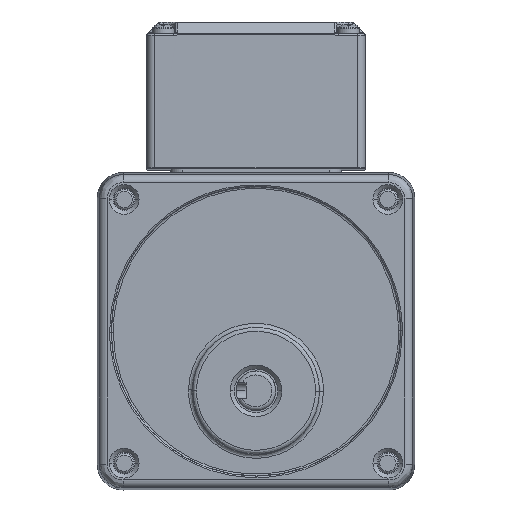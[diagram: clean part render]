
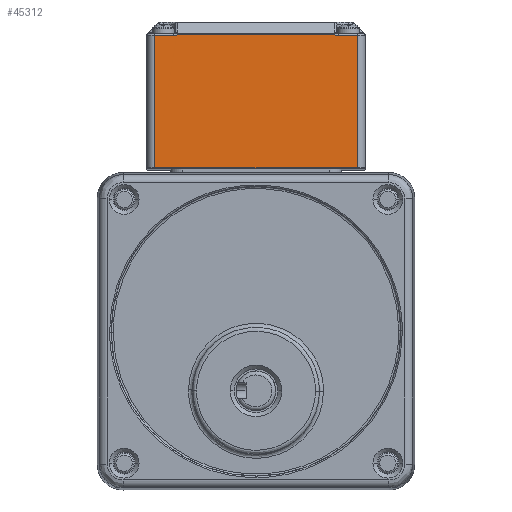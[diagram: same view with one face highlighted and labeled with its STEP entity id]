
A CAD part, front view. The second image highlights one B-rep face of the part: STEP entity #45312.
In plain terms, the highlighted planar face has unit normal (0, -1, 0.008).
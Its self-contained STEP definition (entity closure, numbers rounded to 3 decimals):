
#1236 = VERTEX_POINT ( 'NONE', #2497 ) ;
#1245 = CARTESIAN_POINT ( 'NONE',  ( -19.905, -3.884, 74.743 ) ) ;
#1465 = CARTESIAN_POINT ( 'NONE',  ( 20.141, -3.887, 74.611 ) ) ;
#1482 = EDGE_CURVE ( 'NONE', #13529, #26053, #7954, .T. ) ;
#1610 = AXIS2_PLACEMENT_3D ( 'NONE', #43631, #23450, #9029 ) ;
#2138 = CARTESIAN_POINT ( 'NONE',  ( 19.974, -3.886, 74.7 ) ) ;
#2383 = CARTESIAN_POINT ( 'NONE',  ( 19.835, -3.885, 74.773 ) ) ;
#2497 = CARTESIAN_POINT ( 'NONE',  ( 20.701, -3.888, 74.48 ) ) ;
#4235 = CARTESIAN_POINT ( 'NONE',  ( -20.176, -3.886, 74.593 ) ) ;
#7385 = LINE ( 'NONE', #39440, #8166 ) ;
#7399 = CARTESIAN_POINT ( 'NONE',  ( -25.5, -4.161, 41.181 ) ) ;
#7433 = ORIENTED_EDGE ( 'NONE', *, *, #35329, .F. ) ;
#7954 = LINE ( 'NONE', #39143, #38170 ) ;
#8120 = CARTESIAN_POINT ( 'NONE',  ( -19.835, -3.885, 74.773 ) ) ;
#8166 = VECTOR ( 'NONE', #28450, 1000. ) ;
#9029 = DIRECTION ( 'NONE',  ( -1., 0., 0. ) ) ;
#9030 = CARTESIAN_POINT ( 'NONE',  ( 20.339, -3.887, 74.534 ) ) ;
#9625 = ORIENTED_EDGE ( 'NONE', *, *, #11319, .F. ) ;
#10965 = ORIENTED_EDGE ( 'NONE', *, *, #44011, .T. ) ;
#11319 = EDGE_CURVE ( 'NONE', #29472, #29883, #7385, .T. ) ;
#12094 = EDGE_LOOP ( 'NONE', ( #10965, #30997, #30848, #31088, #7433, #36437, #37834, #9625 ) ) ;
#12240 = CARTESIAN_POINT ( 'NONE',  ( 19.859, -3.886, 74.764 ) ) ;
#12458 = CARTESIAN_POINT ( 'NONE',  ( 19.918, -3.886, 74.733 ) ) ;
#13141 = LINE ( 'NONE', #44060, #34624 ) ;
#13147 = CARTESIAN_POINT ( 'NONE',  ( -25.5, -3.888, 74.48 ) ) ;
#13151 = CARTESIAN_POINT ( 'NONE',  ( 25.5, -4.161, 41.181 ) ) ;
#13529 = VERTEX_POINT ( 'NONE', #37654 ) ;
#13701 = VERTEX_POINT ( 'NONE', #7399 ) ;
#15325 = VERTEX_POINT ( 'NONE', #24565 ) ;
#16150 = CARTESIAN_POINT ( 'NONE',  ( 19.839, -3.886, 74.772 ) ) ;
#16396 = CARTESIAN_POINT ( 'NONE',  ( 19.847, -3.886, 74.769 ) ) ;
#16628 = CARTESIAN_POINT ( 'NONE',  ( 20.701, -3.888, 74.48 ) ) ;
#18699 = CARTESIAN_POINT ( 'NONE',  ( -20.543, -3.887, 74.488 ) ) ;
#18907 = CARTESIAN_POINT ( 'NONE',  ( 19.835, -3.885, 74.773 ) ) ;
#20515 = CARTESIAN_POINT ( 'NONE',  ( 25.5, -3.888, 74.48 ) ) ;
#21323 = EDGE_CURVE ( 'NONE', #15325, #21759, #34244, .T. ) ;
#21437 = CARTESIAN_POINT ( 'NONE',  ( -20.622, -3.887, 74.483 ) ) ;
#21759 = VERTEX_POINT ( 'NONE', #13151 ) ;
#22555 = CARTESIAN_POINT ( 'NONE',  ( 20.198, -3.887, 74.585 ) ) ;
#23126 = EDGE_CURVE ( 'NONE', #21759, #13701, #13141, .T. ) ;
#23450 = DIRECTION ( 'NONE',  ( 0., -1., 0.008 ) ) ;
#23699 = CARTESIAN_POINT ( 'NONE',  ( 20.614, -3.888, 74.482 ) ) ;
#24565 = CARTESIAN_POINT ( 'NONE',  ( 25.5, -3.888, 74.48 ) ) ;
#25769 = CARTESIAN_POINT ( 'NONE',  ( -20.107, -3.885, 74.626 ) ) ;
#26053 = VERTEX_POINT ( 'NONE', #26640 ) ;
#26218 = CARTESIAN_POINT ( 'NONE',  ( 20.091, -3.887, 74.636 ) ) ;
#26443 = CARTESIAN_POINT ( 'NONE',  ( 19.944, -3.886, 74.717 ) ) ;
#26640 = CARTESIAN_POINT ( 'NONE',  ( 19.835, -3.885, 74.773 ) ) ;
#26724 = VECTOR ( 'NONE', #44799, 1000. ) ;
#27800 = CARTESIAN_POINT ( 'NONE',  ( 20.701, -3.888, 74.48 ) ) ;
#28450 = DIRECTION ( 'NONE',  ( 1., 0., 0. ) ) ;
#29472 = VERTEX_POINT ( 'NONE', #40671 ) ;
#29657 = CARTESIAN_POINT ( 'NONE',  ( 19.835, -3.885, 74.773 ) ) ;
#29859 = CARTESIAN_POINT ( 'NONE',  ( 19.835, -3.885, 74.773 ) ) ;
#29871 = DIRECTION ( 'NONE',  ( 1., 0., 0. ) ) ;
#29883 = VERTEX_POINT ( 'NONE', #34124 ) ;
#30322 = CARTESIAN_POINT ( 'NONE',  ( 19.895, -3.886, 74.746 ) ) ;
#30848 = ORIENTED_EDGE ( 'NONE', *, *, #21323, .F. ) ;
#30997 = ORIENTED_EDGE ( 'NONE', *, *, #23126, .F. ) ;
#31088 = ORIENTED_EDGE ( 'NONE', *, *, #36265, .F. ) ;
#31918 =( BOUNDED_CURVE ( )  B_SPLINE_CURVE ( 3, ( #18907, #2383, #29657, #29859, #16150, #16396, #12240, #43839, #30322, #12458, #26443, #2138, #40420, #32842, #26218, #1465, #22555, #40180, #9030, #34428, #37415, #23699, #34200, #27800 ),
 .UNSPECIFIED., .F., .T. ) 
 B_SPLINE_CURVE_WITH_KNOTS ( ( 4, 1, 1, 1, 1, 1, 1, 1, 1, 1, 1, 1, 1, 1, 1, 1, 1, 1, 1, 1, 1, 4 ),
 ( 0., 0.006, 0.036, 0.064, 0.092, 0.12, 0.148, 0.177, 0.208, 0.242, 0.279, 0.32, 0.364, 0.412, 0.465, 0.524, 0.59, 0.663, 0.745, 0.834, 0.932, 1. ),
 .UNSPECIFIED. ) 
 CURVE ( )  GEOMETRIC_REPRESENTATION_ITEM ( )  RATIONAL_B_SPLINE_CURVE ( ( 1.172, 1.172, 1.172, 1.172, 1.172, 1.172, 1.172, 1.172, 1.172, 1.172, 1.172, 1.172, 1.172, 1.172, 1.172, 1.172, 1.172, 1.172, 1.172, 1.172, 1.172, 1.172, 1.172, 1.172 ) ) 
 REPRESENTATION_ITEM ( '' )  );
#32399 = CARTESIAN_POINT ( 'NONE',  ( -20.319, -3.886, 74.538 ) ) ;
#32624 = CARTESIAN_POINT ( 'NONE',  ( -20.392, -3.886, 74.516 ) ) ;
#32842 = CARTESIAN_POINT ( 'NONE',  ( 20.047, -3.886, 74.659 ) ) ;
#33783 = VECTOR ( 'NONE', #45185, 1000. ) ;
#33990 = PLANE ( 'NONE',  #1610 ) ;
#34124 = CARTESIAN_POINT ( 'NONE',  ( -20.701, -3.888, 74.48 ) ) ;
#34200 = CARTESIAN_POINT ( 'NONE',  ( 20.675, -3.888, 74.48 ) ) ;
#34244 = LINE ( 'NONE', #20515, #26724 ) ;
#34428 = CARTESIAN_POINT ( 'NONE',  ( 20.424, -3.888, 74.511 ) ) ;
#34624 = VECTOR ( 'NONE', #36735, 1000. ) ;
#35329 = EDGE_CURVE ( 'NONE', #26053, #1236, #31918, .T. ) ;
#35617 = CARTESIAN_POINT ( 'NONE',  ( -20.701, -3.888, 74.48 ) ) ;
#36144 = DIRECTION ( 'NONE',  ( 1., 0., 0. ) ) ;
#36265 = EDGE_CURVE ( 'NONE', #1236, #15325, #43850, .T. ) ;
#36437 = ORIENTED_EDGE ( 'NONE', *, *, #1482, .F. ) ;
#36735 = DIRECTION ( 'NONE',  ( -1., 0., 0. ) ) ;
#37130 = B_SPLINE_CURVE_WITH_KNOTS ( 'NONE', 3,
 ( #35617, #21437, #18699, #32624, #32399, #4235, #25769, #42953, #1245, #8120 ),
 .UNSPECIFIED., .F., .F.,
 ( 4, 2, 2, 2, 4 ),
 ( 0., 0.25, 0.5, 0.75, 1. ),
 .UNSPECIFIED. ) ;
#37415 = CARTESIAN_POINT ( 'NONE',  ( 20.521, -3.888, 74.492 ) ) ;
#37654 = CARTESIAN_POINT ( 'NONE',  ( -19.835, -3.885, 74.773 ) ) ;
#37834 = ORIENTED_EDGE ( 'NONE', *, *, #43848, .F. ) ;
#38170 = VECTOR ( 'NONE', #36144, 1000. ) ;
#39143 = CARTESIAN_POINT ( 'NONE',  ( -19.835, -3.885, 74.773 ) ) ;
#39440 = CARTESIAN_POINT ( 'NONE',  ( -25.5, -3.888, 74.48 ) ) ;
#40180 = CARTESIAN_POINT ( 'NONE',  ( 20.264, -3.887, 74.559 ) ) ;
#40420 = CARTESIAN_POINT ( 'NONE',  ( 20.008, -3.886, 74.68 ) ) ;
#40671 = CARTESIAN_POINT ( 'NONE',  ( -25.5, -3.888, 74.48 ) ) ;
#40856 = FACE_OUTER_BOUND ( 'NONE', #12094, .T. ) ;
#42953 = CARTESIAN_POINT ( 'NONE',  ( -19.971, -3.885, 74.7 ) ) ;
#43631 = CARTESIAN_POINT ( 'NONE',  ( 0., -4.163, 40.981 ) ) ;
#43839 = CARTESIAN_POINT ( 'NONE',  ( 19.875, -3.886, 74.756 ) ) ;
#43848 = EDGE_CURVE ( 'NONE', #29883, #13529, #37130, .T. ) ;
#43850 = LINE ( 'NONE', #16628, #44698 ) ;
#44011 = EDGE_CURVE ( 'NONE', #29472, #13701, #44066, .T. ) ;
#44060 = CARTESIAN_POINT ( 'NONE',  ( 25.5, -4.161, 41.181 ) ) ;
#44066 = LINE ( 'NONE', #13147, #33783 ) ;
#44698 = VECTOR ( 'NONE', #29871, 1000. ) ;
#44799 = DIRECTION ( 'NONE',  ( 0., -0.008, -1. ) ) ;
#45185 = DIRECTION ( 'NONE',  ( 0., -0.008, -1. ) ) ;
#45312 = ADVANCED_FACE ( 'NONE', ( #40856 ), #33990, .T. ) ;
